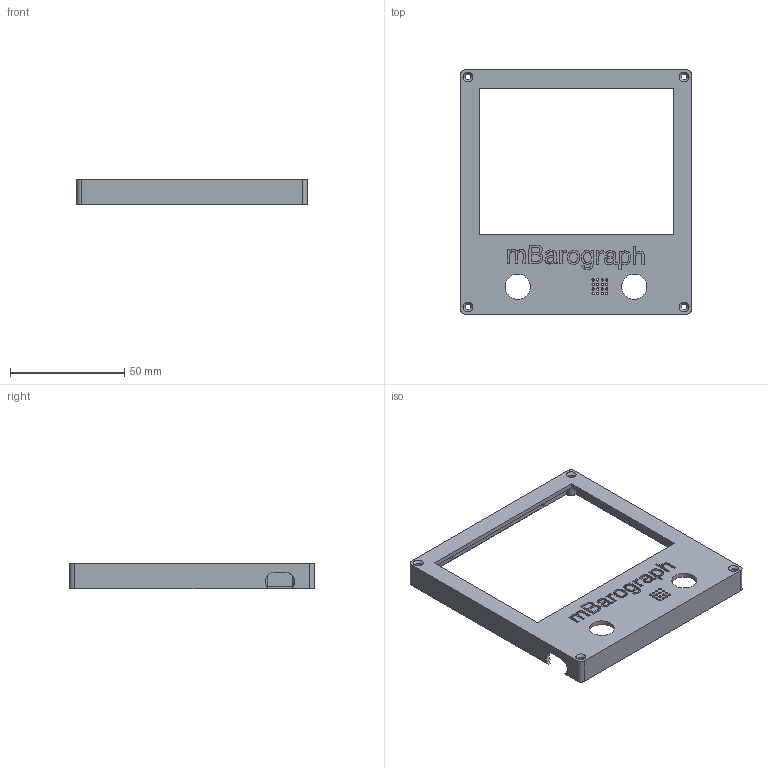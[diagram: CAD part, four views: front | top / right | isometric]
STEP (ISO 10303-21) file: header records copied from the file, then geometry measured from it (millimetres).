
FILE_DESCRIPTION(/* description */ (''),/* implementation_level */ '2;1');
FILE_NAME(/* name */ 'FrontPanel.step',/* time_stamp */ '2026-03-26T11:13:30+01:00',/* author */ (''),/* organization */ (''),/* preprocessor_version */ 'ST-DEVELOPER v20.1',/* originating_system */ 'Autodesk Translation Framework v14.24.0.0',/* authorisation */ '');
FILE_SCHEMA (('AUTOMOTIVE_DESIGN { 1 0 10303 214 3 1 1 }'));
Length unit declared in the file: millimetre
Products named in the file (1): FrontPanel
Bounding box: 101 x 107 x 11 mm (x, y, z)
Volume: 17531.5 mm3; surface area: 20348.8 mm2
Topology: 1 solids, 1 shells, 376 faces, 1036 edges, 690 vertices
Faces by surface type: bspline 176, plane 143, cylinder 53, cone 4
Full cylindrical faces by diameter (mm): 1 x16, 2 x3, 2.5 x4, 4 x3, 5 x1, 6 x2, 11 x2
Entity records: 14045 total; most frequent: CARTESIAN_POINT 5443, ORIENTED_EDGE 2072, DIRECTION 1196, EDGE_CURVE 1036, VERTEX_POINT 690, LINE 570, VECTOR 570, EDGE_LOOP 450
